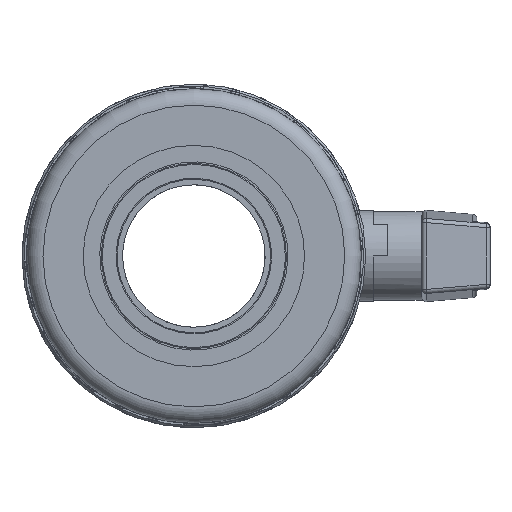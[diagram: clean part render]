
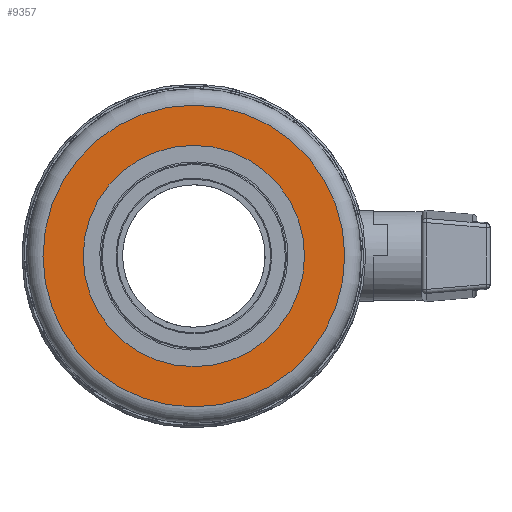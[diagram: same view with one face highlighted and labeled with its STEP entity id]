
A CAD part, front view. The second image highlights one B-rep face of the part: STEP entity #9357.
In plain terms, the highlighted planar face has unit normal (0, -1, 0).
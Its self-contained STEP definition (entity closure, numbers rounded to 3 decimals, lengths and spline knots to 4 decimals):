
#1816=FACE_BOUND('',#2651,.T.);
#2082=FACE_OUTER_BOUND('',#2650,.T.);
#2650=EDGE_LOOP('',(#6612));
#2651=EDGE_LOOP('',(#6613));
#3275=CIRCLE('',#10009,7.375);
#3276=CIRCLE('',#10010,5.41);
#3882=VERTEX_POINT('',#36064);
#3883=VERTEX_POINT('',#36066);
#4915=EDGE_CURVE('',#3882,#3882,#3275,.T.);
#4916=EDGE_CURVE('',#3883,#3883,#3276,.T.);
#6612=ORIENTED_EDGE('',*,*,#4915,.F.);
#6613=ORIENTED_EDGE('',*,*,#4916,.T.);
#8472=PLANE('',#10008);
#9357=ADVANCED_FACE('',(#2082,#1816),#8472,.T.);
#10008=AXIS2_PLACEMENT_3D('',#36063,#11394,#11395);
#10009=AXIS2_PLACEMENT_3D('',#36065,#11396,#11397);
#10010=AXIS2_PLACEMENT_3D('',#36067,#11398,#11399);
#11394=DIRECTION('center_axis',(0.,-1.,0.));
#11395=DIRECTION('ref_axis',(0.341,0.,0.94));
#11396=DIRECTION('center_axis',(0.,1.,0.));
#11397=DIRECTION('ref_axis',(-0.94,0.,0.341));
#11398=DIRECTION('center_axis',(0.,1.,0.));
#11399=DIRECTION('ref_axis',(-0.94,0.,0.341));
#36063=CARTESIAN_POINT('Origin',(6.9341,-8.63,-2.5117));
#36064=CARTESIAN_POINT('',(6.9341,-8.63,-2.5117));
#36065=CARTESIAN_POINT('Origin',(0.,-8.63,0.));
#36066=CARTESIAN_POINT('',(5.0866,-8.63,-1.8425));
#36067=CARTESIAN_POINT('Origin',(0.,-8.63,0.));
